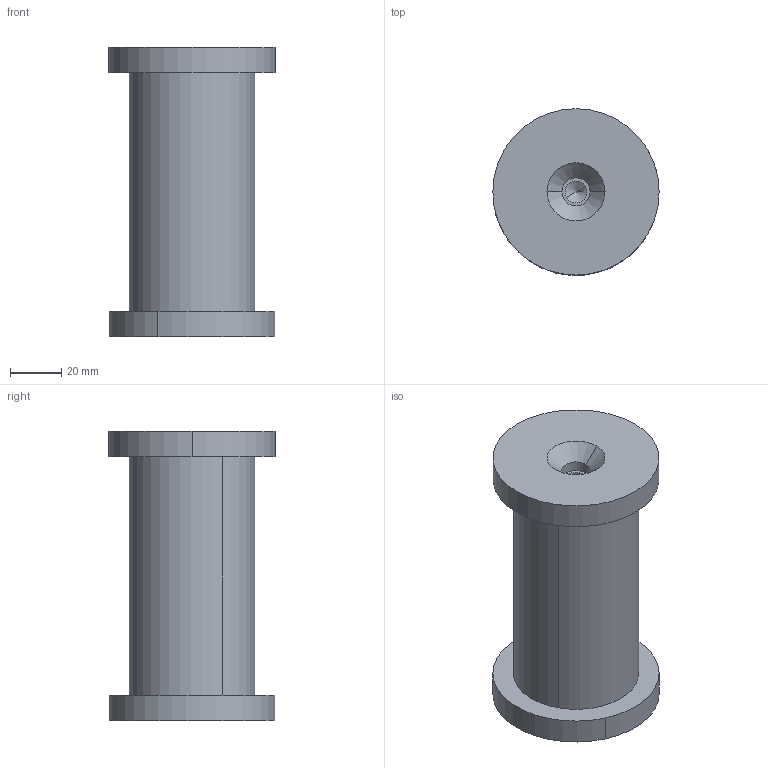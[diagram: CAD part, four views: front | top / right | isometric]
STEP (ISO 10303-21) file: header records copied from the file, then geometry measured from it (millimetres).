
FILE_DESCRIPTION (( 'STEP AP203' ), '1' );
FILE_NAME ('Bolzen Scheibe A M48.STEP', '2018-02-20T07:59:29', ( 'install' ), ( 'Hewlett-Packard Company' ), 'SwSTEP 2.0', 'SolidWorks 2017', '' );
FILE_SCHEMA (( 'CONFIG_CONTROL_DESIGN' ));
Length unit declared in the file: millimetre
Products named in the file (3): Bolzen Scheibe A M48; Bolzen ScheibeVarA_generisch_M48; Scheibe_M48
Assembly tree (3 placements, depth 2):
  Bolzen Scheibe A M48
    Scheibe_M48  x2
    Bolzen ScheibeVarA_generisch_M48
Bounding box: 65 x 65 x 113 mm (x, y, z)
Volume: 235269.5 mm3; surface area: 36978.4 mm2
Topology: 3 solids, 3 shells, 28 faces, 58 edges, 34 vertices
Faces by surface type: cylinder 14, cone 8, plane 6
Entity records: 853 total; most frequent: DIRECTION 112, CARTESIAN_POINT 88, ORIENTED_EDGE 76, AXIS2_PLACEMENT_3D 48, EDGE_CURVE 38, PERSON_AND_ORGANIZATION 27, EDGE_LOOP 24, VERTEX_POINT 24
